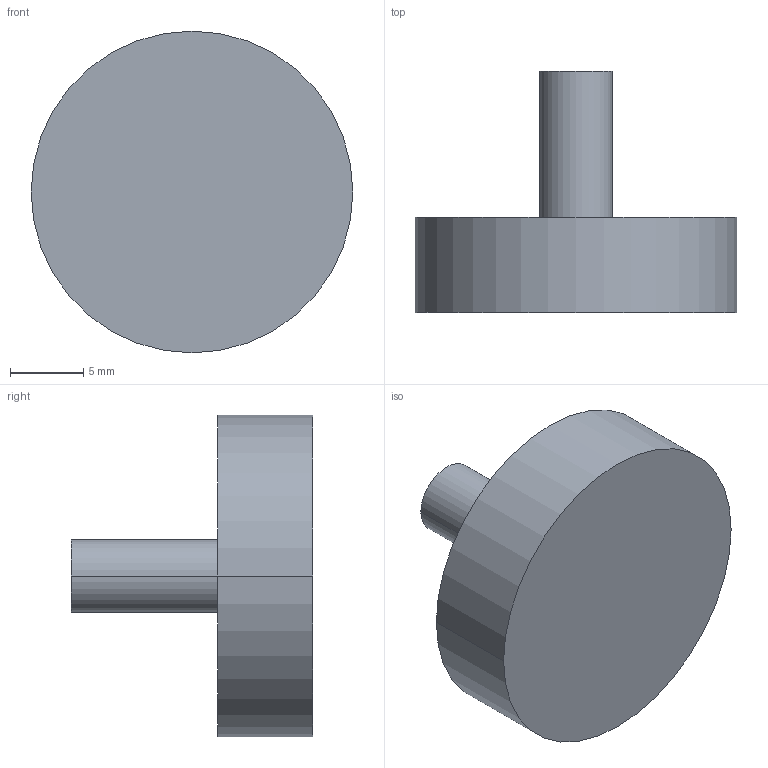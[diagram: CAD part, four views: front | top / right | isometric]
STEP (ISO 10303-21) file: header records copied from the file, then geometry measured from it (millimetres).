
FILE_DESCRIPTION((''),'2;1');
FILE_NAME('CHM_2','2002-12-27T',('Lipro doo'),('Lipro d.o.o.'),'PRO/ENGINEER BY PARAMETRIC TECHNOLOGY CORPORATION, 2001150','PRO/ENGINEER BY PARAMETRIC TECHNOLOGY CORPORATION, 2001150','');
FILE_SCHEMA(('CONFIG_CONTROL_DESIGN'));
Length unit declared in the file: millimetre
Products named in the file (1): CHM_2
Bounding box: 22 x 16.5 x 22 mm (x, y, z)
Volume: 2667.2 mm3; surface area: 1498.5 mm2
Topology: 1 solids, 2 shells, 9 faces, 18 edges, 12 vertices
Faces by surface type: cylinder 6, plane 3
Entity records: 288 total; most frequent: DIRECTION 50, CARTESIAN_POINT 40, ORIENTED_EDGE 32, AXIS2_PLACEMENT_3D 22, EDGE_CURVE 18, VERTEX_POINT 12, CIRCLE 12, EDGE_LOOP 10
